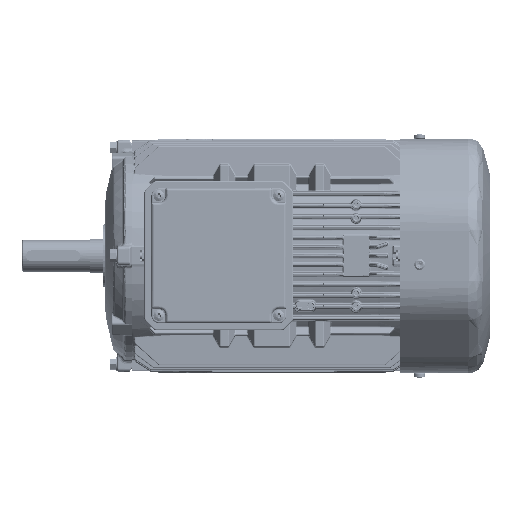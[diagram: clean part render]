
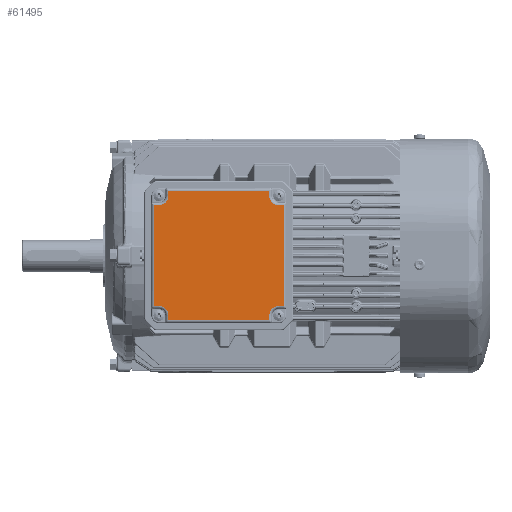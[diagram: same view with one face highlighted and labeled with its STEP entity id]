
A CAD part, top view. The second image highlights one B-rep face of the part: STEP entity #61495.
In plain terms, the highlighted planar face has unit normal (0, 0, 1).
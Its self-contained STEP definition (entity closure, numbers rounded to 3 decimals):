
#14295=LINE('',#435730,#23698);
#14296=LINE('',#435735,#23699);
#14297=LINE('',#435737,#23700);
#14298=LINE('',#435739,#23701);
#14299=LINE('',#435743,#23702);
#14300=LINE('',#435745,#23703);
#14301=LINE('',#435747,#23704);
#14302=LINE('',#435751,#23705);
#14303=LINE('',#435753,#23706);
#14304=LINE('',#435755,#23707);
#14305=LINE('',#435759,#23708);
#14306=LINE('',#435761,#23709);
#23698=VECTOR('',#264451,1.);
#23699=VECTOR('',#264454,1.);
#23700=VECTOR('',#264455,1.);
#23701=VECTOR('',#264456,1.);
#23702=VECTOR('',#264459,1.);
#23703=VECTOR('',#264460,1.);
#23704=VECTOR('',#264461,1.);
#23705=VECTOR('',#264464,1.);
#23706=VECTOR('',#264465,1.);
#23707=VECTOR('',#264466,1.);
#23708=VECTOR('',#264469,1.);
#23709=VECTOR('',#264470,1.);
#40032=PLANE('',#226482);
#47622=FACE_OUTER_BOUND('',#82815,.T.);
#61495=ADVANCED_FACE('',(#47622),#40032,.T.);
#82815=EDGE_LOOP('',(#122615,#122616,#122617,#122618,#122619,#122620,#122621,
#122622,#122623,#122624,#122625,#122626,#122627,#122628,#122629,#122630));
#122615=ORIENTED_EDGE('',*,*,#189277,.T.);
#122616=ORIENTED_EDGE('',*,*,#189278,.T.);
#122617=ORIENTED_EDGE('',*,*,#189279,.T.);
#122618=ORIENTED_EDGE('',*,*,#189280,.T.);
#122619=ORIENTED_EDGE('',*,*,#189281,.T.);
#122620=ORIENTED_EDGE('',*,*,#189282,.T.);
#122621=ORIENTED_EDGE('',*,*,#189283,.T.);
#122622=ORIENTED_EDGE('',*,*,#189284,.T.);
#122623=ORIENTED_EDGE('',*,*,#189285,.T.);
#122624=ORIENTED_EDGE('',*,*,#189286,.T.);
#122625=ORIENTED_EDGE('',*,*,#189287,.T.);
#122626=ORIENTED_EDGE('',*,*,#189288,.T.);
#122627=ORIENTED_EDGE('',*,*,#189289,.T.);
#122628=ORIENTED_EDGE('',*,*,#189290,.T.);
#122629=ORIENTED_EDGE('',*,*,#189291,.T.);
#122630=ORIENTED_EDGE('',*,*,#189292,.T.);
#163977=VERTEX_POINT('',#435731);
#163978=VERTEX_POINT('',#435732);
#163979=VERTEX_POINT('',#435734);
#163980=VERTEX_POINT('',#435736);
#163981=VERTEX_POINT('',#435738);
#163982=VERTEX_POINT('',#435740);
#163983=VERTEX_POINT('',#435742);
#163984=VERTEX_POINT('',#435744);
#163985=VERTEX_POINT('',#435746);
#163986=VERTEX_POINT('',#435748);
#163987=VERTEX_POINT('',#435750);
#163988=VERTEX_POINT('',#435752);
#163989=VERTEX_POINT('',#435754);
#163990=VERTEX_POINT('',#435756);
#163991=VERTEX_POINT('',#435758);
#163992=VERTEX_POINT('',#435760);
#189277=EDGE_CURVE('',#163977,#163978,#14295,.T.);
#189278=EDGE_CURVE('',#163978,#163979,#210438,.T.);
#189279=EDGE_CURVE('',#163979,#163980,#14296,.T.);
#189280=EDGE_CURVE('',#163980,#163981,#14297,.T.);
#189281=EDGE_CURVE('',#163981,#163982,#14298,.T.);
#189282=EDGE_CURVE('',#163982,#163983,#210439,.T.);
#189283=EDGE_CURVE('',#163983,#163984,#14299,.T.);
#189284=EDGE_CURVE('',#163984,#163985,#14300,.T.);
#189285=EDGE_CURVE('',#163985,#163986,#14301,.T.);
#189286=EDGE_CURVE('',#163986,#163987,#210440,.T.);
#189287=EDGE_CURVE('',#163987,#163988,#14302,.T.);
#189288=EDGE_CURVE('',#163988,#163989,#14303,.T.);
#189289=EDGE_CURVE('',#163989,#163990,#14304,.T.);
#189290=EDGE_CURVE('',#163990,#163991,#210441,.T.);
#189291=EDGE_CURVE('',#163991,#163992,#14305,.T.);
#189292=EDGE_CURVE('',#163992,#163977,#14306,.T.);
#210438=CIRCLE('',#226478,7.);
#210439=CIRCLE('',#226479,7.);
#210440=CIRCLE('',#226480,7.);
#210441=CIRCLE('',#226481,7.);
#226478=AXIS2_PLACEMENT_3D('',#435733,#264452,#264453);
#226479=AXIS2_PLACEMENT_3D('',#435741,#264457,#264458);
#226480=AXIS2_PLACEMENT_3D('',#435749,#264462,#264463);
#226481=AXIS2_PLACEMENT_3D('',#435757,#264467,#264468);
#226482=AXIS2_PLACEMENT_3D('',#435762,#264471,#264472);
#264451=DIRECTION('',(1.,0.,0.));
#264452=DIRECTION('',(0.,0.,-1.));
#264453=DIRECTION('',(-1.,0.,0.));
#264454=DIRECTION('',(0.,-1.,0.));
#264455=DIRECTION('',(1.,0.,0.));
#264456=DIRECTION('',(0.,1.,0.));
#264457=DIRECTION('',(0.,0.,-1.));
#264458=DIRECTION('',(-1.,0.,0.));
#264459=DIRECTION('',(1.,0.,0.));
#264460=DIRECTION('',(0.,1.,0.));
#264461=DIRECTION('',(-1.,0.,0.));
#264462=DIRECTION('',(0.,0.,-1.));
#264463=DIRECTION('',(-1.,0.,0.));
#264464=DIRECTION('',(0.,1.,0.));
#264465=DIRECTION('',(-1.,0.,0.));
#264466=DIRECTION('',(0.,-1.,0.));
#264467=DIRECTION('',(0.,0.,-1.));
#264468=DIRECTION('',(-1.,0.,0.));
#264469=DIRECTION('',(-1.,0.,0.));
#264470=DIRECTION('',(0.,-1.,0.));
#264471=DIRECTION('',(0.,0.,1.));
#264472=DIRECTION('',(1.,0.,0.));
#435730=CARTESIAN_POINT('',(23.5,-37.,133.05));
#435731=CARTESIAN_POINT('',(20.,-37.,133.05));
#435732=CARTESIAN_POINT('',(23.5,-37.,133.05));
#435733=CARTESIAN_POINT('',(23.5,-44.,133.05));
#435734=CARTESIAN_POINT('',(30.5,-44.,133.05));
#435735=CARTESIAN_POINT('',(30.5,-49.5,133.05));
#435736=CARTESIAN_POINT('',(30.5,-47.5,133.05));
#435737=CARTESIAN_POINT('',(106.5,-47.5,133.05));
#435738=CARTESIAN_POINT('',(104.5,-47.5,133.05));
#435739=CARTESIAN_POINT('',(104.5,-44.,133.05));
#435740=CARTESIAN_POINT('',(104.5,-44.,133.05));
#435741=CARTESIAN_POINT('',(111.5,-44.,133.05));
#435742=CARTESIAN_POINT('',(111.5,-37.,133.05));
#435743=CARTESIAN_POINT('',(117.,-37.,133.05));
#435744=CARTESIAN_POINT('',(115.,-37.,133.05));
#435745=CARTESIAN_POINT('',(115.,39.,133.05));
#435746=CARTESIAN_POINT('',(115.,37.,133.05));
#435747=CARTESIAN_POINT('',(111.5,37.,133.05));
#435748=CARTESIAN_POINT('',(111.5,37.,133.05));
#435749=CARTESIAN_POINT('',(111.5,44.,133.05));
#435750=CARTESIAN_POINT('',(104.5,44.,133.05));
#435751=CARTESIAN_POINT('',(104.5,49.5,133.05));
#435752=CARTESIAN_POINT('',(104.5,47.5,133.05));
#435753=CARTESIAN_POINT('',(28.5,47.5,133.05));
#435754=CARTESIAN_POINT('',(30.5,47.5,133.05));
#435755=CARTESIAN_POINT('',(30.5,44.,133.05));
#435756=CARTESIAN_POINT('',(30.5,44.,133.05));
#435757=CARTESIAN_POINT('',(23.5,44.,133.05));
#435758=CARTESIAN_POINT('',(23.5,37.,133.05));
#435759=CARTESIAN_POINT('',(18.,37.,133.05));
#435760=CARTESIAN_POINT('',(20.,37.,133.05));
#435761=CARTESIAN_POINT('',(20.,-39.,133.05));
#435762=CARTESIAN_POINT('',(23.5,-44.,133.05));
